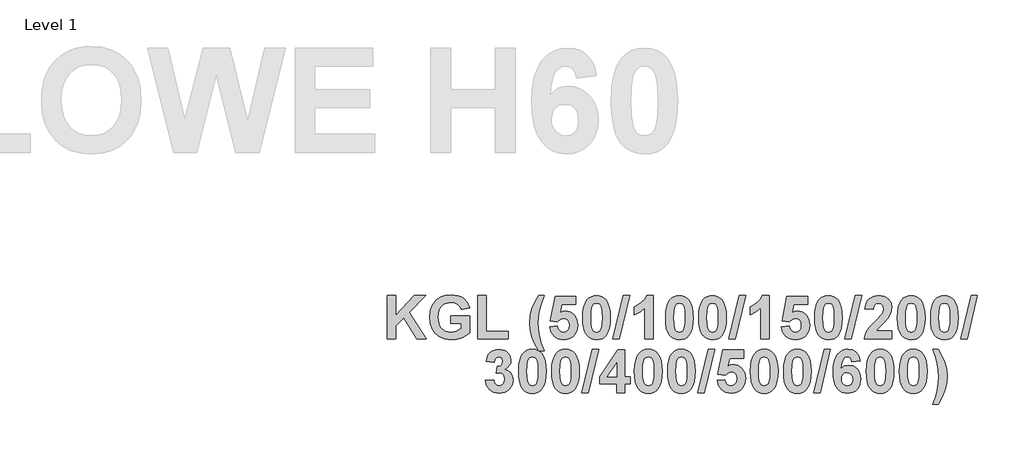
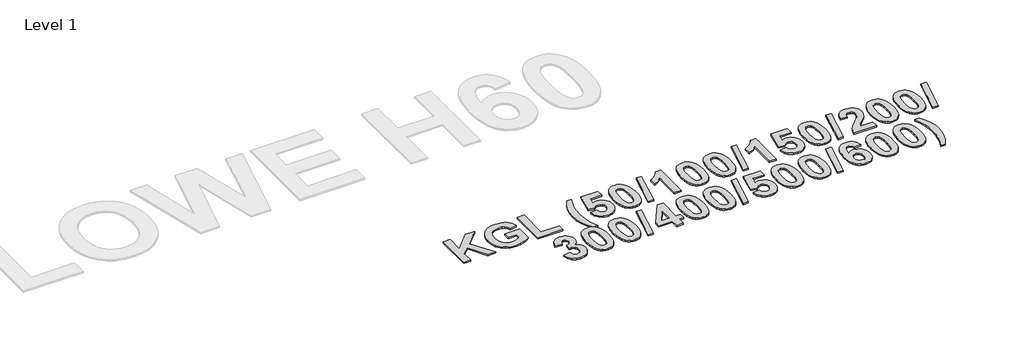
# One storey, part 27 of 42: 1 proxy.
"""IFC4 building model written with IfcOpenShell, lengths in millimetres."""

from ifc_helpers import new_model, si_unit, origin, origin_with_axes, place, context, project, spatial, polyline, outline, extrude, element, save

model = new_model("IFC4")

# Units and contexts
model_context = context("Model", 3, world=origin())
ifc_project = project(units=[si_unit("LENGTHUNIT", "METRE", prefix="MILLI")], contexts=[model_context])

# Site, building, storey
site = spatial("IfcSite", under=ifc_project)
building = spatial("IfcBuilding", under=site)
storey = spatial("IfcBuildingStorey", under=building, Name="Level 1", Elevation=0.0)

# Proxy
placement = place(None, origin())
element("IfcBuildingElementProxy", 1, Name="300mm Arial 2", ObjectType="300mm Arial 2", at=placement, inside=storey, context=model_context, shape_type="SweptSolid", body=[
    extrude(outline(polyline([(-7254.0265891, 21266.2760859), (-7254.0265891, 21521.3409359), (-7205.4428082, 21521.3409359), (-7205.4428082, 21405.0688143), (-7096.0027808, 21521.3409359), (-7029.3266022, 21521.3409359), (-7125.8615628, 21423.9203335), (-7025.2779538, 21266.2760859), (-7082.0855519, 21266.2760859), (-7157.4283684, 21391.9739671), (-7205.4428082, 21343.4534463), (-7205.4428082, 21266.2760859), (-7254.0265891, 21266.2760859)])), origin_with_axes(), (0.0, 0.0, 1.0), 10.0),
    extrude(outline(polyline([(-6881.5509352, 21359.3949994), (-6881.5509352, 21403.930132), (-6772.237428, 21403.930132), (-6772.237428, 21302.2078406), (-6791.7531786, 21287.2863571), (-6818.417324, 21274.2784926), (-6848.8454472, 21265.2402013), (-6879.6531312, 21262.2274375), (-6916.4863428, 21266.4184212), (-6948.2903739, 21278.9913724), (-6973.9423572, 21299.3532272), (-6992.3194253, 21326.9109219), (-7003.3741333, 21359.434537), (-7007.059036, 21394.6941528), (-7002.8917748, 21432.2153182), (-6990.3899913, 21465.3240895), (-6969.8541712, 21492.6287438), (-6941.5847999, 21512.737558), (-6914.0982728, 21522.2265778), (-6880.6020332, 21525.3895843), (-6838.399618, 21520.2813287), (-6821.1829779, 21513.8960092), (-6806.5560493, 21504.9565619), (-6784.6443213, 21480.6172263), (-6772.237428, 21448.4652645), (-6820.821209, 21440.3679677), (-6828.997581, 21457.1714401), (-6842.1398733, 21470.0053393), (-6859.7103748, 21478.1421737), (-6881.1713744, 21480.8544518), (-6912.9754055, 21475.5564158), (-6926.1611891, 21468.9338708), (-6937.5361515, 21459.6623078), (-6946.6970093, 21447.7812643), (-6953.2404791, 21433.330278), (-6958.475255, 21396.718477), (-6953.2721092, 21357.3627677), (-6946.7681769, 21341.9015962), (-6937.6626718, 21329.2515468), (-6926.4458597, 21319.4126195), (-6913.6080068, 21312.3848142), (-6883.0691783, 21306.7625701), (-6849.6361989, 21312.9304329), (-6820.821209, 21327.891454), (-6820.821209, 21359.3949994), (-6881.5509352, 21359.3949994)])), origin_with_axes(), (0.0, 0.0, 1.0), 10.0),
    extrude(outline(polyline([(-6723.6536471, 21266.2760859), (-6723.6536471, 21521.3409359), (-6675.0698661, 21521.3409359), (-6675.0698661, 21310.8112185), (-6545.5131169, 21310.8112185), (-6545.5131169, 21266.2760859), (-6723.6536471, 21266.2760859)])), origin_with_axes(), (0.0, 0.0, 1.0), 10.0),
    extrude(outline(polyline([(-6334.9833995, 21197.4490629), (-6367.3725868, 21197.4490629), (-6390.0434364, 21237.1210729), (-6406.5622382, 21278.327141), (-6416.6443217, 21319.6280993), (-6420.0050161, 21359.5847798), (-6415.8931076, 21406.9824333), (-6403.557382, 21451.7547913), (-6387.3627883, 21488.0344767), (-6367.3725868, 21521.3409359), (-6334.9833995, 21521.3409359), (-6352.5459935, 21474.1014328), (-6363.608609, 21434.4847754), (-6369.4680786, 21397.6041188), (-6371.4212352, 21358.5726177), (-6366.7399855, 21301.92317), (-6353.8981788, 21246.8552256), (-6334.9833995, 21197.4490629)])), origin_with_axes(), (0.0, 0.0, 1.0), 10.0),
    extrude(outline(polyline([(-6302.5942122, 21338.0763351), (-6258.0590796, 21343.2004058), (-6253.915541, 21328.1286795), (-6245.6600939, 21316.5678904), (-6234.5579408, 21309.2139001), (-6221.8742845, 21306.7625701), (-6207.6802925, 21309.364143), (-6195.8427404, 21317.1688617), (-6187.8482413, 21330.2083563), (-6185.1834082, 21348.5142568), (-6187.6584609, 21365.6735675), (-6195.0836188, 21377.9302179), (-6206.47835, 21385.2842082), (-6220.8621224, 21387.7355383), (-6239.6820115, 21382.6747278), (-6256.4143162, 21367.4922962), (-6298.5455638, 21373.7550493), (-6270.2050249, 21517.2922875), (-6148.7455725, 21517.2922875), (-6148.7455725, 21468.7085066), (-6230.9204833, 21468.7085066), (-6240.7258036, 21422.3388302), (-6225.2428865, 21429.7877107), (-6209.4120386, 21432.2706708), (-6181.2929101, 21426.5219064), (-6157.7917713, 21409.2756131), (-6141.8976633, 21382.8566007), (-6136.5996273, 21349.589679), (-6141.0120214, 21320.6639839), (-6154.2492039, 21294.9961856), (-6167.4666177, 21280.6598583), (-6183.0167487, 21270.4196245), (-6200.8995971, 21264.2754843), (-6221.1151629, 21262.2274375), (-6252.1205348, 21267.3673232), (-6276.8157086, 21282.7869802), (-6294.0303719, 21306.8890903), (-6302.5942122, 21338.0763351)])), origin_with_axes(), (0.0, 0.0, 1.0), 10.0),
    extrude(outline(polyline([(-6027.2861201, 21521.3409359), (-6010.1544858, 21519.6961725), (-5995.0076381, 21514.7618822), (-5981.845577, 21506.5380652), (-5970.6683025, 21495.0247212), (-5960.0129241, 21476.8967398), (-5952.4019395, 21453.6367802), (-5947.8353488, 21425.2448425), (-5946.3131519, 21391.7209266), (-5947.8432563, 21358.2286407), (-5952.4335696, 21329.8050729), (-5960.0840917, 21306.4502232), (-5970.7948228, 21288.1640914), (-5981.9167446, 21276.8168053), (-5995.0392681, 21268.711601), (-6010.1623933, 21263.8484784), (-6027.2861201, 21262.2274375), (-6044.5936967, 21264.0066287), (-6060.1418509, 21269.3442023), (-6073.9305827, 21278.2401583), (-6085.9598921, 21290.6944967), (-6095.7157904, 21307.7154258), (-6102.6842893, 21330.311154), (-6106.8653886, 21358.4816813), (-6108.2590884, 21392.2270076), (-6106.728984, 21425.5532356), (-6102.1386707, 21453.8581907), (-6094.4881485, 21477.1418728), (-6083.7774175, 21495.404282), (-6072.6554957, 21506.7515681), (-6059.5329721, 21514.8567724), (-6044.409847, 21519.7198951), (-6027.2861201, 21521.3409359)]), holes=[polyline([(-6027.2861201, 21476.8058034), (-6043.4807138, 21471.4603223), (-6049.8067269, 21463.9877192), (-6054.4879767, 21452.2608724), (-6058.3784747, 21428.1113172), (-6059.6753074, 21391.7209266), (-6058.52081, 21355.8128945), (-6055.0573178, 21333.2369351), (-6049.8304495, 21319.9839375), (-6043.3858236, 21312.044791), (-6027.2861201, 21306.7625701), (-6011.0915265, 21312.1080512), (-6004.7655133, 21319.5806542), (-6000.0842636, 21331.3075011), (-5996.1937655, 21355.330536), (-5994.8969328, 21391.7209266), (-5996.0514302, 21427.5894211), (-5999.5149224, 21450.173288), (-6004.7417908, 21463.4658232), (-6011.1864167, 21471.4603223), (-6027.2861201, 21476.8058034)])]), origin_with_axes(), (0.0, 0.0, 1.0), 10.0),
    extrude(outline(polyline([(-5931.0042001, 21266.2760859), (-5870.2744739, 21521.3409359), (-5832.9509963, 21521.3409359), (-5893.6807225, 21266.2760859), (-5931.0042001, 21266.2760859)])), origin_with_axes(), (0.0, 0.0, 1.0), 10.0),
    extrude(outline(polyline([(-5695.2969503, 21266.2760859), (-5743.8807313, 21266.2760859), (-5743.8807313, 21448.5917848), (-5771.9365996, 21424.7110851), (-5804.6104574, 21407.9787804), (-5804.6104574, 21456.5625613), (-5785.142152, 21465.6482977), (-5764.0607132, 21480.3800008), (-5745.6045698, 21499.3975778), (-5734.0121508, 21521.3409359), (-5695.2969503, 21521.3409359), (-5695.2969503, 21266.2760859)])), origin_with_axes(), (0.0, 0.0, 1.0), 10.0),
    extrude(outline(polyline([(-5541.4483106, 21521.3409359), (-5524.3166763, 21519.6961725), (-5509.1698286, 21514.7618822), (-5496.0077675, 21506.5380652), (-5484.830493, 21495.0247212), (-5474.1751146, 21476.8967398), (-5466.56413, 21453.6367802), (-5461.9975393, 21425.2448425), (-5460.4753424, 21391.7209266), (-5462.0054468, 21358.2286407), (-5466.5957601, 21329.8050729), (-5474.2462822, 21306.4502232), (-5484.9570133, 21288.1640914), (-5496.0789351, 21276.8168053), (-5509.2014586, 21268.711601), (-5524.3245838, 21263.8484784), (-5541.4483106, 21262.2274375), (-5558.7558872, 21264.0066287), (-5574.3040414, 21269.3442023), (-5588.0927732, 21278.2401583), (-5600.1220825, 21290.6944967), (-5609.8779809, 21307.7154258), (-5616.8464798, 21330.311154), (-5621.0275791, 21358.4816813), (-5622.4212789, 21392.2270076), (-5620.8911745, 21425.5532356), (-5616.3008612, 21453.8581907), (-5608.650339, 21477.1418728), (-5597.939608, 21495.404282), (-5586.8176862, 21506.7515681), (-5573.6951626, 21514.8567724), (-5558.5720375, 21519.7198951), (-5541.4483106, 21521.3409359)]), holes=[polyline([(-5541.4483106, 21476.8058034), (-5557.6429043, 21471.4603223), (-5563.9689174, 21463.9877192), (-5568.6501672, 21452.2608724), (-5572.5406652, 21428.1113172), (-5573.8374979, 21391.7209266), (-5572.6830005, 21355.8128945), (-5569.2195083, 21333.2369351), (-5563.99264, 21319.9839375), (-5557.5480141, 21312.044791), (-5541.4483106, 21306.7625701), (-5525.253717, 21312.1080512), (-5518.9277038, 21319.5806542), (-5514.2464541, 21331.3075011), (-5510.355956, 21355.330536), (-5509.0591233, 21391.7209266), (-5510.2136207, 21427.5894211), (-5513.6771129, 21450.173288), (-5518.9039813, 21463.4658232), (-5525.3486072, 21471.4603223), (-5541.4483106, 21476.8058034)])]), origin_with_axes(), (0.0, 0.0, 1.0), 10.0),
    extrude(outline(polyline([(-5347.1131868, 21521.3409359), (-5329.9815525, 21519.6961725), (-5314.8347048, 21514.7618822), (-5301.6726437, 21506.5380652), (-5290.4953692, 21495.0247212), (-5279.8399908, 21476.8967398), (-5272.2290062, 21453.6367802), (-5267.6624155, 21425.2448425), (-5266.1402186, 21391.7209266), (-5267.670323, 21358.2286407), (-5272.2606363, 21329.8050729), (-5279.9111584, 21306.4502232), (-5290.6218894, 21288.1640914), (-5301.7438113, 21276.8168053), (-5314.8663348, 21268.711601), (-5329.98946, 21263.8484784), (-5347.1131868, 21262.2274375), (-5364.4207634, 21264.0066287), (-5379.9689176, 21269.3442023), (-5393.7576494, 21278.2401583), (-5405.7869587, 21290.6944967), (-5415.5428571, 21307.7154258), (-5422.511356, 21330.311154), (-5426.6924553, 21358.4816813), (-5428.0861551, 21392.2270076), (-5426.5560507, 21425.5532356), (-5421.9657374, 21453.8581907), (-5414.3152152, 21477.1418728), (-5403.6044842, 21495.404282), (-5392.4825624, 21506.7515681), (-5379.3600388, 21514.8567724), (-5364.2369137, 21519.7198951), (-5347.1131868, 21521.3409359)]), holes=[polyline([(-5347.1131868, 21476.8058034), (-5363.3077805, 21471.4603223), (-5369.6337936, 21463.9877192), (-5374.3150434, 21452.2608724), (-5378.2055414, 21428.1113172), (-5379.5023741, 21391.7209266), (-5378.3478767, 21355.8128945), (-5374.8843845, 21333.2369351), (-5369.6575162, 21319.9839375), (-5363.2128903, 21312.044791), (-5347.1131868, 21306.7625701), (-5330.9185932, 21312.1080512), (-5324.59258, 21319.5806542), (-5319.9113303, 21331.3075011), (-5316.0208322, 21355.330536), (-5314.7239995, 21391.7209266), (-5315.8784969, 21427.5894211), (-5319.3419891, 21450.173288), (-5324.5688575, 21463.4658232), (-5331.0134834, 21471.4603223), (-5347.1131868, 21476.8058034)])]), origin_with_axes(), (0.0, 0.0, 1.0), 10.0),
    extrude(outline(polyline([(-5250.8312668, 21266.2760859), (-5190.1015406, 21521.3409359), (-5152.778063, 21521.3409359), (-5213.5077892, 21266.2760859), (-5250.8312668, 21266.2760859)])), origin_with_axes(), (0.0, 0.0, 1.0), 10.0),
    extrude(outline(polyline([(-5015.124017, 21266.2760859), (-5063.707798, 21266.2760859), (-5063.707798, 21448.5917848), (-5091.7636662, 21424.7110851), (-5124.4375241, 21407.9787804), (-5124.4375241, 21456.5625613), (-5104.9692187, 21465.6482977), (-5083.8877799, 21480.3800008), (-5065.4316365, 21499.3975778), (-5053.8392174, 21521.3409359), (-5015.124017, 21521.3409359), (-5015.124017, 21266.2760859)])), origin_with_axes(), (0.0, 0.0, 1.0), 10.0),
    extrude(outline(polyline([(-4942.2483456, 21338.0763351), (-4897.713213, 21343.2004058), (-4893.5696744, 21328.1286795), (-4885.3142273, 21316.5678904), (-4874.2120742, 21309.2139001), (-4861.5284179, 21306.7625701), (-4847.3344259, 21309.364143), (-4835.4968738, 21317.1688617), (-4827.5023747, 21330.2083563), (-4824.8375416, 21348.5142568), (-4827.3125943, 21365.6735675), (-4834.7377522, 21377.9302179), (-4846.1324834, 21385.2842082), (-4860.5162557, 21387.7355383), (-4879.3361449, 21382.6747278), (-4896.0684496, 21367.4922962), (-4938.1996972, 21373.7550493), (-4909.8591583, 21517.2922875), (-4788.3997059, 21517.2922875), (-4788.3997059, 21468.7085066), (-4870.5746166, 21468.7085066), (-4880.379937, 21422.3388302), (-4864.8970199, 21429.7877107), (-4849.066172, 21432.2706708), (-4820.9470435, 21426.5219064), (-4797.4459047, 21409.2756131), (-4781.5517967, 21382.8566007), (-4776.2537607, 21349.589679), (-4780.6661548, 21320.6639839), (-4793.9033373, 21294.9961856), (-4807.1207511, 21280.6598583), (-4822.6708821, 21270.4196245), (-4840.5537305, 21264.2754843), (-4860.7692963, 21262.2274375), (-4891.7746682, 21267.3673232), (-4916.469842, 21282.7869802), (-4933.6845053, 21306.8890903), (-4942.2483456, 21338.0763351)])), origin_with_axes(), (0.0, 0.0, 1.0), 10.0),
    extrude(outline(polyline([(-4666.9402535, 21521.3409359), (-4649.8086192, 21519.6961725), (-4634.6617715, 21514.7618822), (-4621.4997104, 21506.5380652), (-4610.3224359, 21495.0247212), (-4599.6670575, 21476.8967398), (-4592.0560729, 21453.6367802), (-4587.4894822, 21425.2448425), (-4585.9672853, 21391.7209266), (-4587.4973897, 21358.2286407), (-4592.087703, 21329.8050729), (-4599.7382251, 21306.4502232), (-4610.4489561, 21288.1640914), (-4621.570878, 21276.8168053), (-4634.6934015, 21268.711601), (-4649.8165267, 21263.8484784), (-4666.9402535, 21262.2274375), (-4684.2478301, 21264.0066287), (-4699.7959843, 21269.3442023), (-4713.5847161, 21278.2401583), (-4725.6140254, 21290.6944967), (-4735.3699238, 21307.7154258), (-4742.3384227, 21330.311154), (-4746.519522, 21358.4816813), (-4747.9132218, 21392.2270076), (-4746.3831173, 21425.5532356), (-4741.7928041, 21453.8581907), (-4734.1422819, 21477.1418728), (-4723.4315509, 21495.404282), (-4712.309629, 21506.7515681), (-4699.1871055, 21514.8567724), (-4684.0639804, 21519.7198951), (-4666.9402535, 21521.3409359)]), holes=[polyline([(-4666.9402535, 21476.8058034), (-4683.1348472, 21471.4603223), (-4689.4608603, 21463.9877192), (-4694.14211, 21452.2608724), (-4698.0326081, 21428.1113172), (-4699.3294408, 21391.7209266), (-4698.1749434, 21355.8128945), (-4694.7114512, 21333.2369351), (-4689.4845829, 21319.9839375), (-4683.039957, 21312.044791), (-4666.9402535, 21306.7625701), (-4650.7456599, 21312.1080512), (-4644.4196467, 21319.5806542), (-4639.738397, 21331.3075011), (-4635.8478989, 21355.330536), (-4634.5510662, 21391.7209266), (-4635.7055636, 21427.5894211), (-4639.1690558, 21450.173288), (-4644.3959242, 21463.4658232), (-4650.8405501, 21471.4603223), (-4666.9402535, 21476.8058034)])]), origin_with_axes(), (0.0, 0.0, 1.0), 10.0),
    extrude(outline(polyline([(-4570.6583335, 21266.2760859), (-4509.9286073, 21521.3409359), (-4472.6051297, 21521.3409359), (-4533.3348559, 21266.2760859), (-4570.6583335, 21266.2760859)])), origin_with_axes(), (0.0, 0.0, 1.0), 10.0),
    extrude(outline(polyline([(-4294.4645996, 21314.8598669), (-4294.4645996, 21266.2760859), (-4456.4105361, 21266.2760859), (-4451.2390203, 21290.7814793), (-4440.9118039, 21313.942595), (-4421.728169, 21340.1243819), (-4389.9873981, 21373.6917891), (-4352.41088, 21414.4313138), (-4345.3890054, 21429.1392943), (-4343.0483805, 21443.6574945), (-4345.0173521, 21457.8040414), (-4350.9242669, 21468.2340556), (-4360.2946739, 21474.6628664), (-4372.654122, 21476.8058034), (-4384.9265875, 21474.6944965), (-4394.4156073, 21468.3605758), (-4400.8048805, 21457.13981), (-4403.7781067, 21440.3679677), (-4452.3618877, 21444.7961769), (-4443.7585098, 21479.9450874), (-4436.1356639, 21493.1842468), (-4426.2987135, 21503.5332089), (-4401.6747073, 21516.8890042), (-4371.5786998, 21521.3409359), (-4339.442553, 21516.3512931), (-4315.0241423, 21501.3823644), (-4299.6044853, 21478.9961854), (-4294.4645996, 21451.7547913), (-4300.0947513, 21419.6186446), (-4317.9341083, 21387.6722782), (-4348.1408211, 21355.7891719), (-4375.8803887, 21328.1444945), (-4384.9898477, 21314.8598669), (-4294.4645996, 21314.8598669)])), origin_with_axes(), (0.0, 0.0, 1.0), 10.0),
    extrude(outline(polyline([(-4181.102444, 21521.3409359), (-4163.9708097, 21519.6961725), (-4148.823962, 21514.7618822), (-4135.6619009, 21506.5380652), (-4124.4846264, 21495.0247212), (-4113.829248, 21476.8967398), (-4106.2182634, 21453.6367802), (-4101.6516727, 21425.2448425), (-4100.1294758, 21391.7209266), (-4101.6595802, 21358.2286407), (-4106.2498935, 21329.8050729), (-4113.9004156, 21306.4502232), (-4124.6111466, 21288.1640914), (-4135.7330685, 21276.8168053), (-4148.855592, 21268.711601), (-4163.9787172, 21263.8484784), (-4181.102444, 21262.2274375), (-4198.4100206, 21264.0066287), (-4213.9581748, 21269.3442023), (-4227.7469066, 21278.2401583), (-4239.7762159, 21290.6944967), (-4249.5321143, 21307.7154258), (-4256.5006132, 21330.311154), (-4260.6817125, 21358.4816813), (-4262.0754123, 21392.2270076), (-4260.5453078, 21425.5532356), (-4255.9549946, 21453.8581907), (-4248.3044724, 21477.1418728), (-4237.5937414, 21495.404282), (-4226.4718195, 21506.7515681), (-4213.349296, 21514.8567724), (-4198.2261709, 21519.7198951), (-4181.102444, 21521.3409359)]), holes=[polyline([(-4181.102444, 21476.8058034), (-4197.2970377, 21471.4603223), (-4203.6230508, 21463.9877192), (-4208.3043005, 21452.2608724), (-4212.1947986, 21428.1113172), (-4213.4916313, 21391.7209266), (-4212.3371339, 21355.8128945), (-4208.8736417, 21333.2369351), (-4203.6467734, 21319.9839375), (-4197.2021475, 21312.044791), (-4181.102444, 21306.7625701), (-4164.9078504, 21312.1080512), (-4158.5818372, 21319.5806542), (-4153.9005875, 21331.3075011), (-4150.0100894, 21355.330536), (-4148.7132567, 21391.7209266), (-4149.8677541, 21427.5894211), (-4153.3312463, 21450.173288), (-4158.5581147, 21463.4658232), (-4165.0027406, 21471.4603223), (-4181.102444, 21476.8058034)])]), origin_with_axes(), (0.0, 0.0, 1.0), 10.0),
    extrude(outline(polyline([(-3986.7673202, 21521.3409359), (-3969.6356859, 21519.6961725), (-3954.4888382, 21514.7618822), (-3941.3267771, 21506.5380652), (-3930.1495026, 21495.0247212), (-3919.4941242, 21476.8967398), (-3911.8831396, 21453.6367802), (-3907.3165489, 21425.2448425), (-3905.794352, 21391.7209266), (-3907.3244564, 21358.2286407), (-3911.9147697, 21329.8050729), (-3919.5652918, 21306.4502232), (-3930.2760228, 21288.1640914), (-3941.3979447, 21276.8168053), (-3954.5204682, 21268.711601), (-3969.6435934, 21263.8484784), (-3986.7673202, 21262.2274375), (-4004.0748968, 21264.0066287), (-4019.623051, 21269.3442023), (-4033.4117828, 21278.2401583), (-4045.4410921, 21290.6944967), (-4055.1969905, 21307.7154258), (-4062.1654894, 21330.311154), (-4066.3465887, 21358.4816813), (-4067.7402885, 21392.2270076), (-4066.210184, 21425.5532356), (-4061.6198708, 21453.8581907), (-4053.9693486, 21477.1418728), (-4043.2586176, 21495.404282), (-4032.1366957, 21506.7515681), (-4019.0141722, 21514.8567724), (-4003.8910471, 21519.7198951), (-3986.7673202, 21521.3409359)]), holes=[polyline([(-3986.7673202, 21476.8058034), (-4002.9619139, 21471.4603223), (-4009.287927, 21463.9877192), (-4013.9691767, 21452.2608724), (-4017.8596748, 21428.1113172), (-4019.1565075, 21391.7209266), (-4018.0020101, 21355.8128945), (-4014.5385179, 21333.2369351), (-4009.3116496, 21319.9839375), (-4002.8670237, 21312.044791), (-3986.7673202, 21306.7625701), (-3970.5727266, 21312.1080512), (-3964.2467134, 21319.5806542), (-3959.5654637, 21331.3075011), (-3955.6749656, 21355.330536), (-3954.3781329, 21391.7209266), (-3955.5326303, 21427.5894211), (-3958.9961225, 21450.173288), (-3964.2229909, 21463.4658232), (-3970.6676168, 21471.4603223), (-3986.7673202, 21476.8058034)])]), origin_with_axes(), (0.0, 0.0, 1.0), 10.0),
    extrude(outline(polyline([(-3890.4854002, 21266.2760859), (-3829.755674, 21521.3409359), (-3792.4321964, 21521.3409359), (-3853.1619226, 21266.2760859), (-3890.4854002, 21266.2760859)])), origin_with_axes(), (0.0, 0.0, 1.0), 10.0),
    extrude(outline(polyline([(-6679.1185146, 21022.7918795), (-6630.5347336, 21028.4220312), (-6626.7865708, 21012.7967787), (-6619.5907309, 21001.3466949), (-6609.7379654, 20994.3248203), (-6598.019026, 20991.9841955), (-6585.4460749, 20994.6648435), (-6575.0555983, 21002.7067877), (-6568.0811688, 21015.2876464), (-6565.756359, 21031.5850377), (-6567.8834809, 21047.0046948), (-6574.2648467, 21058.8501544), (-6583.7143288, 21066.3939251), (-6595.0457999, 21068.9085153), (-6614.34014, 21065.3026878), (-6610.1017111, 21105.346351), (-6596.2714649, 21107.0860046), (-6586.1577514, 21113.3171276), (-6579.966166, 21123.1857081), (-6577.9023042, 21135.8377344), (-6579.4442699, 21146.5840492), (-6584.0701671, 21154.910664), (-6591.2580995, 21160.2482376), (-6600.4861712, 21162.0274288), (-6609.8723932, 21159.963567), (-6617.7878171, 21153.7719816), (-6623.5523966, 21143.610823), (-6626.4860852, 21129.6382415), (-6675.0698661, 21136.9131566), (-6669.5108821, 21158.6509193), (-6661.6903483, 21175.5334668), (-6650.9677561, 21188.4464412), (-6636.7025964, 21198.2754841), (-6619.7093436, 21204.490792), (-6600.8024718, 21206.5625613), (-6570.1529381, 21200.8217044), (-6557.3664841, 21193.6456332), (-6546.2722385, 21183.5991336), (-6533.5569521, 21163.577302), (-6529.3185233, 21141.0883253), (-6531.5919343, 21125.1428184), (-6538.4121672, 21110.8974275), (-6549.7792221, 21098.3521527), (-6565.6930989, 21087.5069939), (-6545.8294176, 21079.9553157), (-6530.3939455, 21066.6627806), (-6520.4779199, 21048.799701), (-6517.1725781, 21027.5363893), (-6523.0320477, 20996.7682429), (-6540.6104568, 20970.8869416), (-6553.0470032, 20960.6328697), (-6566.9187639, 20953.3085326), (-6598.967928, 20947.4490629), (-6629.2299934, 20952.6601162), (-6653.846092, 20968.2932762), (-6671.0607553, 20992.3400337), (-6679.1185146, 21022.7918795)])), origin_with_axes(), (0.0, 0.0, 1.0), 10.0),
    extrude(outline(polyline([(-6403.8104225, 21206.5625613), (-6386.6787882, 21204.9177979), (-6371.5319404, 21199.9835076), (-6358.3698793, 21191.7596906), (-6347.1926049, 21180.2463466), (-6336.5372265, 21162.1183652), (-6328.9262419, 21138.8584056), (-6324.3596512, 21110.4664679), (-6322.8374542, 21076.942552), (-6324.3675587, 21043.4502661), (-6328.957872, 21015.0266983), (-6336.6083941, 20991.6718486), (-6347.3191251, 20973.3857168), (-6358.441047, 20962.0384307), (-6371.5635705, 20953.9332264), (-6386.6866957, 20949.0701038), (-6403.8104225, 20947.4490629), (-6421.1179991, 20949.2282541), (-6436.6661533, 20954.5658277), (-6450.454885, 20963.4617837), (-6462.4841944, 20975.9161221), (-6472.2400928, 20992.9370512), (-6479.2085917, 21015.5327794), (-6483.389691, 21043.7033067), (-6484.7833908, 21077.448633), (-6483.2532863, 21110.774861), (-6478.662973, 21139.0798161), (-6471.0124509, 21162.3634982), (-6460.3017199, 21180.6259074), (-6449.179798, 21191.9731935), (-6436.0572745, 21200.0783978), (-6420.9341493, 21204.9415205), (-6403.8104225, 21206.5625613)]), holes=[polyline([(-6403.8104225, 21162.0274288), (-6420.0050161, 21156.6819477), (-6426.3310293, 21149.2093446), (-6431.012279, 21137.4824978), (-6434.9027771, 21113.3329426), (-6436.1996098, 21076.942552), (-6435.0451124, 21041.0345199), (-6431.5816202, 21018.4585605), (-6426.3547518, 21005.2055629), (-6419.910126, 20997.2664164), (-6403.8104225, 20991.9841955), (-6387.6158288, 20997.3296766), (-6381.2898157, 21004.8022796), (-6376.608566, 21016.5291265), (-6372.7180679, 21040.5521614), (-6371.4212352, 21076.942552), (-6372.5757326, 21112.8110465), (-6376.0392248, 21135.3949134), (-6381.2660932, 21148.6874486), (-6387.710719, 21156.6819477), (-6403.8104225, 21162.0274288)])]), origin_with_axes(), (0.0, 0.0, 1.0), 10.0),
    extrude(outline(polyline([(-6209.4752987, 21206.5625613), (-6192.3436644, 21204.9177979), (-6177.1968166, 21199.9835076), (-6164.0347555, 21191.7596906), (-6152.8574811, 21180.2463466), (-6142.2021027, 21162.1183652), (-6134.5911181, 21138.8584056), (-6130.0245274, 21110.4664679), (-6128.5023304, 21076.942552), (-6130.0324349, 21043.4502661), (-6134.6227482, 21015.0266983), (-6142.2732703, 20991.6718486), (-6152.9840013, 20973.3857168), (-6164.1059232, 20962.0384307), (-6177.2284467, 20953.9332264), (-6192.3515719, 20949.0701038), (-6209.4752987, 20947.4490629), (-6226.7828753, 20949.2282541), (-6242.3310295, 20954.5658277), (-6256.1197612, 20963.4617837), (-6268.1490706, 20975.9161221), (-6277.904969, 20992.9370512), (-6284.8734679, 21015.5327794), (-6289.0545672, 21043.7033067), (-6290.4482669, 21077.448633), (-6288.9181625, 21110.774861), (-6284.3278492, 21139.0798161), (-6276.6773271, 21162.3634982), (-6265.9665961, 21180.6259074), (-6254.8446742, 21191.9731935), (-6241.7221507, 21200.0783978), (-6226.5990255, 21204.9415205), (-6209.4752987, 21206.5625613)]), holes=[polyline([(-6209.4752987, 21162.0274288), (-6225.6698923, 21156.6819477), (-6231.9959055, 21149.2093446), (-6236.6771552, 21137.4824978), (-6240.5676533, 21113.3329426), (-6241.864486, 21076.942552), (-6240.7099886, 21041.0345199), (-6237.2464964, 21018.4585605), (-6232.019628, 21005.2055629), (-6225.5750022, 20997.2664164), (-6209.4752987, 20991.9841955), (-6193.280705, 20997.3296766), (-6186.9546919, 21004.8022796), (-6182.2734422, 21016.5291265), (-6178.3829441, 21040.5521614), (-6177.0861114, 21076.942552), (-6178.2406088, 21112.8110465), (-6181.704101, 21135.3949134), (-6186.9309694, 21148.6874486), (-6193.3755952, 21156.6819477), (-6209.4752987, 21162.0274288)])]), origin_with_axes(), (0.0, 0.0, 1.0), 10.0),
    extrude(outline(polyline([(-6113.1933786, 20951.4977113), (-6052.4636525, 21206.5625613), (-6015.1401749, 21206.5625613), (-6075.8699011, 20951.4977113), (-6113.1933786, 20951.4977113)])), origin_with_axes(), (0.0, 0.0, 1.0), 10.0),
    extrude(outline(polyline([(-5909.8753162, 20951.4977113), (-5909.8753162, 21004.1301407), (-6007.0428781, 21004.1301407), (-6007.0428781, 21044.4268444), (-5903.4227828, 21202.5139129), (-5861.2915352, 21202.5139129), (-5861.2915352, 21044.6166248), (-5828.9023479, 21044.6166248), (-5828.9023479, 21004.1301407), (-5861.2915352, 21004.1301407), (-5861.2915352, 20951.4977113), (-5909.8753162, 20951.4977113)]), holes=[polyline([(-5909.8753162, 21044.6166248), (-5909.8753162, 21127.487397), (-5964.152509, 21044.6166248), (-5909.8753162, 21044.6166248)])]), origin_with_axes(), (0.0, 0.0, 1.0), 10.0),
    extrude(outline(polyline([(-5723.6374892, 21206.5625613), (-5706.5058548, 21204.9177979), (-5691.3590071, 21199.9835076), (-5678.196946, 21191.7596906), (-5667.0196716, 21180.2463466), (-5656.3642932, 21162.1183652), (-5648.7533086, 21138.8584056), (-5644.1867179, 21110.4664679), (-5642.6645209, 21076.942552), (-5644.1946254, 21043.4502661), (-5648.7849387, 21015.0266983), (-5656.4354608, 20991.6718486), (-5667.1461918, 20973.3857168), (-5678.2681137, 20962.0384307), (-5691.3906372, 20953.9332264), (-5706.5137624, 20949.0701038), (-5723.6374892, 20947.4490629), (-5740.9450658, 20949.2282541), (-5756.49322, 20954.5658277), (-5770.2819517, 20963.4617837), (-5782.3112611, 20975.9161221), (-5792.0671595, 20992.9370512), (-5799.0356584, 21015.5327794), (-5803.2167577, 21043.7033067), (-5804.6104574, 21077.448633), (-5803.080353, 21110.774861), (-5798.4900397, 21139.0798161), (-5790.8395176, 21162.3634982), (-5780.1287866, 21180.6259074), (-5769.0068647, 21191.9731935), (-5755.8843412, 21200.0783978), (-5740.761216, 21204.9415205), (-5723.6374892, 21206.5625613)]), holes=[polyline([(-5723.6374892, 21162.0274288), (-5739.8320828, 21156.6819477), (-5746.158096, 21149.2093446), (-5750.8393457, 21137.4824978), (-5754.7298438, 21113.3329426), (-5756.0266765, 21076.942552), (-5754.8721791, 21041.0345199), (-5751.4086869, 21018.4585605), (-5746.1818185, 21005.2055629), (-5739.7371926, 20997.2664164), (-5723.6374892, 20991.9841955), (-5707.4428955, 20997.3296766), (-5701.1168824, 21004.8022796), (-5696.4356327, 21016.5291265), (-5692.5451346, 21040.5521614), (-5691.2483019, 21076.942552), (-5692.4027993, 21112.8110465), (-5695.8662915, 21135.3949134), (-5701.0931599, 21148.6874486), (-5707.5377857, 21156.6819477), (-5723.6374892, 21162.0274288)])]), origin_with_axes(), (0.0, 0.0, 1.0), 10.0),
    extrude(outline(polyline([(-5529.3023654, 21206.5625613), (-5512.170731, 21204.9177979), (-5497.0238833, 21199.9835076), (-5483.8618222, 21191.7596906), (-5472.6845477, 21180.2463466), (-5462.0291694, 21162.1183652), (-5454.4181848, 21138.8584056), (-5449.8515941, 21110.4664679), (-5448.3293971, 21076.942552), (-5449.8595016, 21043.4502661), (-5454.4498149, 21015.0266983), (-5462.100337, 20991.6718486), (-5472.811068, 20973.3857168), (-5483.9329899, 20962.0384307), (-5497.0555134, 20953.9332264), (-5512.1786386, 20949.0701038), (-5529.3023654, 20947.4490629), (-5546.609942, 20949.2282541), (-5562.1580962, 20954.5658277), (-5575.9468279, 20963.4617837), (-5587.9761373, 20975.9161221), (-5597.7320357, 20992.9370512), (-5604.7005346, 21015.5327794), (-5608.8816339, 21043.7033067), (-5610.2753336, 21077.448633), (-5608.7452292, 21110.774861), (-5604.1549159, 21139.0798161), (-5596.5043938, 21162.3634982), (-5585.7936628, 21180.6259074), (-5574.6717409, 21191.9731935), (-5561.5492174, 21200.0783978), (-5546.4260922, 21204.9415205), (-5529.3023654, 21206.5625613)]), holes=[polyline([(-5529.3023654, 21162.0274288), (-5545.496959, 21156.6819477), (-5551.8229722, 21149.2093446), (-5556.5042219, 21137.4824978), (-5560.39472, 21113.3329426), (-5561.6915527, 21076.942552), (-5560.5370553, 21041.0345199), (-5557.0735631, 21018.4585605), (-5551.8466947, 21005.2055629), (-5545.4020688, 20997.2664164), (-5529.3023654, 20991.9841955), (-5513.1077717, 20997.3296766), (-5506.7817586, 21004.8022796), (-5502.1005089, 21016.5291265), (-5498.2100108, 21040.5521614), (-5496.9131781, 21076.942552), (-5498.0676755, 21112.8110465), (-5501.5311677, 21135.3949134), (-5506.758036, 21148.6874486), (-5513.2026619, 21156.6819477), (-5529.3023654, 21162.0274288)])]), origin_with_axes(), (0.0, 0.0, 1.0), 10.0),
    extrude(outline(polyline([(-5433.0204453, 20951.4977113), (-5372.2907191, 21206.5625613), (-5334.9672416, 21206.5625613), (-5395.6969678, 20951.4977113), (-5433.0204453, 20951.4977113)])), origin_with_axes(), (0.0, 0.0, 1.0), 10.0),
    extrude(outline(polyline([(-5318.7726479, 21023.2979605), (-5274.2375154, 21028.4220312), (-5270.0939768, 21013.3503049), (-5261.8385296, 21001.7895158), (-5250.7363766, 20994.4355255), (-5238.0527202, 20991.9841955), (-5223.8587282, 20994.5857684), (-5212.0211761, 21002.3904871), (-5204.026677, 21015.4299817), (-5201.361844, 21033.7358822), (-5203.8368966, 21050.8951929), (-5211.2620546, 21063.1518433), (-5222.6567857, 21070.5058336), (-5237.0405581, 21072.9571637), (-5255.8604472, 21067.8963532), (-5272.592752, 21052.7139216), (-5314.7239995, 21058.9766747), (-5286.3834606, 21202.5139129), (-5164.9240083, 21202.5139129), (-5164.9240083, 21153.930132), (-5247.098919, 21153.930132), (-5256.9042394, 21107.5604556), (-5241.4213222, 21115.0093361), (-5225.5904743, 21117.4922962), (-5197.4713459, 21111.7435318), (-5173.9702071, 21094.4972385), (-5158.076099, 21068.0782261), (-5152.778063, 21034.8113044), (-5157.1904572, 21005.8856093), (-5170.4276397, 20980.217811), (-5183.6450534, 20965.8814837), (-5199.1951845, 20955.6412499), (-5217.0780329, 20949.4971097), (-5237.2935986, 20947.4490629), (-5268.2989706, 20952.5889486), (-5292.9941444, 20968.0086056), (-5310.2088076, 20992.1107157), (-5318.7726479, 21023.2979605)])), origin_with_axes(), (0.0, 0.0, 1.0), 10.0),
    extrude(outline(polyline([(-5043.4645559, 21206.5625613), (-5026.3329215, 21204.9177979), (-5011.1860738, 21199.9835076), (-4998.0240127, 21191.7596906), (-4986.8467382, 21180.2463466), (-4976.1913599, 21162.1183652), (-4968.5803753, 21138.8584056), (-4964.0137846, 21110.4664679), (-4962.4915876, 21076.942552), (-4964.0216921, 21043.4502661), (-4968.6120054, 21015.0266983), (-4976.2625275, 20991.6718486), (-4986.9732585, 20973.3857168), (-4998.0951804, 20962.0384307), (-5011.2177039, 20953.9332264), (-5026.3408291, 20949.0701038), (-5043.4645559, 20947.4490629), (-5060.7721325, 20949.2282541), (-5076.3202867, 20954.5658277), (-5090.1090184, 20963.4617837), (-5102.1383278, 20975.9161221), (-5111.8942262, 20992.9370512), (-5118.8627251, 21015.5327794), (-5123.0438244, 21043.7033067), (-5124.4375241, 21077.448633), (-5122.9074197, 21110.774861), (-5118.3171064, 21139.0798161), (-5110.6665843, 21162.3634982), (-5099.9558533, 21180.6259074), (-5088.8339314, 21191.9731935), (-5075.7114079, 21200.0783978), (-5060.5882827, 21204.9415205), (-5043.4645559, 21206.5625613)]), holes=[polyline([(-5043.4645559, 21162.0274288), (-5059.6591495, 21156.6819477), (-5065.9851627, 21149.2093446), (-5070.6664124, 21137.4824978), (-5074.5569105, 21113.3329426), (-5075.8537432, 21076.942552), (-5074.6992458, 21041.0345199), (-5071.2357536, 21018.4585605), (-5066.0088852, 21005.2055629), (-5059.5642593, 20997.2664164), (-5043.4645559, 20991.9841955), (-5027.2699622, 20997.3296766), (-5020.9439491, 21004.8022796), (-5016.2626994, 21016.5291265), (-5012.3722013, 21040.5521614), (-5011.0753686, 21076.942552), (-5012.229866, 21112.8110465), (-5015.6933582, 21135.3949134), (-5020.9202265, 21148.6874486), (-5027.3648524, 21156.6819477), (-5043.4645559, 21162.0274288)])]), origin_with_axes(), (0.0, 0.0, 1.0), 10.0),
    extrude(outline(polyline([(-4849.1294321, 21206.5625613), (-4831.9977977, 21204.9177979), (-4816.85095, 21199.9835076), (-4803.6888889, 21191.7596906), (-4792.5116144, 21180.2463466), (-4781.8562361, 21162.1183652), (-4774.2452515, 21138.8584056), (-4769.6786608, 21110.4664679), (-4768.1564638, 21076.942552), (-4769.6865683, 21043.4502661), (-4774.2768816, 21015.0266983), (-4781.9274037, 20991.6718486), (-4792.6381347, 20973.3857168), (-4803.7600566, 20962.0384307), (-4816.8825801, 20953.9332264), (-4832.0057053, 20949.0701038), (-4849.1294321, 20947.4490629), (-4866.4370087, 20949.2282541), (-4881.9851629, 20954.5658277), (-4895.7738946, 20963.4617837), (-4907.803204, 20975.9161221), (-4917.5591024, 20992.9370512), (-4924.5276013, 21015.5327794), (-4928.7087006, 21043.7033067), (-4930.1024003, 21077.448633), (-4928.5722959, 21110.774861), (-4923.9819826, 21139.0798161), (-4916.3314605, 21162.3634982), (-4905.6207295, 21180.6259074), (-4894.4988076, 21191.9731935), (-4881.3762841, 21200.0783978), (-4866.2531589, 21204.9415205), (-4849.1294321, 21206.5625613)]), holes=[polyline([(-4849.1294321, 21162.0274288), (-4865.3240257, 21156.6819477), (-4871.6500389, 21149.2093446), (-4876.3312886, 21137.4824978), (-4880.2217867, 21113.3329426), (-4881.5186194, 21076.942552), (-4880.364122, 21041.0345199), (-4876.9006298, 21018.4585605), (-4871.6737614, 21005.2055629), (-4865.2291355, 20997.2664164), (-4849.1294321, 20991.9841955), (-4832.9348384, 20997.3296766), (-4826.6088253, 21004.8022796), (-4821.9275756, 21016.5291265), (-4818.0370775, 21040.5521614), (-4816.7402448, 21076.942552), (-4817.8947422, 21112.8110465), (-4821.3582344, 21135.3949134), (-4826.5851027, 21148.6874486), (-4833.0297286, 21156.6819477), (-4849.1294321, 21162.0274288)])]), origin_with_axes(), (0.0, 0.0, 1.0), 10.0),
    extrude(outline(polyline([(-4752.847512, 20951.4977113), (-4692.1177858, 21206.5625613), (-4654.7943083, 21206.5625613), (-4715.5240345, 20951.4977113), (-4752.847512, 20951.4977113)])), origin_with_axes(), (0.0, 0.0, 1.0), 10.0),
    extrude(outline(polyline([(-4480.7024265, 21138.8742207), (-4529.2862075, 21133.6868899), (-4532.2594337, 21146.2835636), (-4537.8895854, 21155.1004444), (-4545.891992, 21160.2956827), (-4555.981983, 21162.0274288), (-4569.5829112, 21158.6667343), (-4580.9064748, 21148.5846508), (-4589.209367, 21127.7483451), (-4593.7482814, 21092.1249835), (-4573.7264498, 21108.1139818), (-4549.3396692, 21113.4436478), (-4521.5131188, 21107.750236), (-4498.0040725, 21090.6700005), (-4481.9913517, 21064.5910113), (-4476.6537781, 21031.9013384), (-4482.1099645, 20997.4641043), (-4488.9301974, 20983.0744013), (-4498.4785235, 20970.570641), (-4510.1697865, 20960.4549506), (-4523.4188303, 20953.2294574), (-4554.5902601, 20947.4490629), (-4572.121224, 20949.3152368), (-4588.0232395, 20954.9137584), (-4602.2963067, 20964.2446278), (-4614.9404255, 20977.307845), (-4625.2913645, 20994.6213522), (-4632.6848923, 21016.7030918), (-4637.1210091, 21043.5530639), (-4638.5997146, 21075.1712683), (-4637.0557721, 21107.6237157), (-4632.4239443, 21135.205133), (-4624.7042314, 21157.9155202), (-4613.8966333, 21175.7548773), (-4600.6218901, 21189.2332391), (-4585.5007418, 21198.8606403), (-4568.5331884, 21204.6370811), (-4549.71923, 21206.5625613), (-4524.3993623, 21202.2292423), (-4503.8556347, 21189.2292853), (-4488.9895038, 21167.9738811), (-4480.7024265, 21138.8742207)]), holes=[polyline([(-4590.0159337, 21032.9767606), (-4587.3906382, 21015.5565019), (-4579.5147519, 21002.6435276), (-4568.2702635, 20994.6490285), (-4555.539162, 20991.9841955), (-4543.6462573, 20994.16667), (-4533.9041971, 21000.7140936), (-4527.4042186, 21012.2432526), (-4525.2375591, 21029.3709331), (-4527.5702764, 21047.1233075), (-4534.5684285, 21059.3878655), (-4545.0617028, 21066.5283528), (-4557.8797869, 21068.9085153), (-4570.3183103, 21066.6311506), (-4580.6850643, 21059.7990564), (-4587.6832163, 21048.538753), (-4590.0159337, 21032.9767606)])]), origin_with_axes(), (0.0, 0.0, 1.0), 10.0),
    extrude(outline(polyline([(-4363.2916226, 21206.5625613), (-4346.1599882, 21204.9177979), (-4331.0131405, 21199.9835076), (-4317.8510794, 21191.7596906), (-4306.6738049, 21180.2463466), (-4296.0184266, 21162.1183652), (-4288.407442, 21138.8584056), (-4283.8408512, 21110.4664679), (-4282.3186543, 21076.942552), (-4283.8487588, 21043.4502661), (-4288.4390721, 21015.0266983), (-4296.0895942, 20991.6718486), (-4306.8003252, 20973.3857168), (-4317.9222471, 20962.0384307), (-4331.0447706, 20953.9332264), (-4346.1678958, 20949.0701038), (-4363.2916226, 20947.4490629), (-4380.5991992, 20949.2282541), (-4396.1473534, 20954.5658277), (-4409.9360851, 20963.4617837), (-4421.9653945, 20975.9161221), (-4431.7212929, 20992.9370512), (-4438.6897918, 21015.5327794), (-4442.8708911, 21043.7033067), (-4444.2645908, 21077.448633), (-4442.7344864, 21110.774861), (-4438.1441731, 21139.0798161), (-4430.493651, 21162.3634982), (-4419.78292, 21180.6259074), (-4408.6609981, 21191.9731935), (-4395.5384746, 21200.0783978), (-4380.4153494, 21204.9415205), (-4363.2916226, 21206.5625613)]), holes=[polyline([(-4363.2916226, 21162.0274288), (-4379.4862162, 21156.6819477), (-4385.8122294, 21149.2093446), (-4390.4934791, 21137.4824978), (-4394.3839772, 21113.3329426), (-4395.6808099, 21076.942552), (-4394.5263125, 21041.0345199), (-4391.0628203, 21018.4585605), (-4385.8359519, 21005.2055629), (-4379.391326, 20997.2664164), (-4363.2916226, 20991.9841955), (-4347.0970289, 20997.3296766), (-4340.7710158, 21004.8022796), (-4336.0897661, 21016.5291265), (-4332.199268, 21040.5521614), (-4330.9024353, 21076.942552), (-4332.0569327, 21112.8110465), (-4335.5204249, 21135.3949134), (-4340.7472932, 21148.6874486), (-4347.1919191, 21156.6819477), (-4363.2916226, 21162.0274288)])]), origin_with_axes(), (0.0, 0.0, 1.0), 10.0),
    extrude(outline(polyline([(-4168.9564988, 21206.5625613), (-4151.8248644, 21204.9177979), (-4136.6780167, 21199.9835076), (-4123.5159556, 21191.7596906), (-4112.3386811, 21180.2463466), (-4101.6833028, 21162.1183652), (-4094.0723182, 21138.8584056), (-4089.5057274, 21110.4664679), (-4087.9835305, 21076.942552), (-4089.513635, 21043.4502661), (-4094.1039483, 21015.0266983), (-4101.7544704, 20991.6718486), (-4112.4652014, 20973.3857168), (-4123.5871233, 20962.0384307), (-4136.7096468, 20953.9332264), (-4151.832772, 20949.0701038), (-4168.9564988, 20947.4490629), (-4186.2640754, 20949.2282541), (-4201.8122296, 20954.5658277), (-4215.6009613, 20963.4617837), (-4227.6302707, 20975.9161221), (-4237.3861691, 20992.9370512), (-4244.354668, 21015.5327794), (-4248.5357673, 21043.7033067), (-4249.929467, 21077.448633), (-4248.3993626, 21110.774861), (-4243.8090493, 21139.0798161), (-4236.1585272, 21162.3634982), (-4225.4477962, 21180.6259074), (-4214.3258743, 21191.9731935), (-4201.2033508, 21200.0783978), (-4186.0802256, 21204.9415205), (-4168.9564988, 21206.5625613)]), holes=[polyline([(-4168.9564988, 21162.0274288), (-4185.1510924, 21156.6819477), (-4191.4771056, 21149.2093446), (-4196.1583553, 21137.4824978), (-4200.0488534, 21113.3329426), (-4201.3456861, 21076.942552), (-4200.1911887, 21041.0345199), (-4196.7276965, 21018.4585605), (-4191.5008281, 21005.2055629), (-4185.0562022, 20997.2664164), (-4168.9564988, 20991.9841955), (-4152.7619051, 20997.3296766), (-4146.435892, 21004.8022796), (-4141.7546423, 21016.5291265), (-4137.8641442, 21040.5521614), (-4136.5673115, 21076.942552), (-4137.7218089, 21112.8110465), (-4141.1853011, 21135.3949134), (-4146.4121694, 21148.6874486), (-4152.8567953, 21156.6819477), (-4168.9564988, 21162.0274288)])]), origin_with_axes(), (0.0, 0.0, 1.0), 10.0),
    extrude(outline(polyline([(-4055.5943432, 20882.6706883), (-4037.5968358, 20928.6608039), (-4027.9180357, 20965.5730906), (-4021.307352, 21005.2688231), (-4019.1565075, 21043.7942431), (-4021.1017566, 21082.8257442), (-4026.9375037, 21119.7064008), (-4037.9922117, 21159.3230582), (-4055.5943432, 21206.5625613), (-4023.2051559, 21206.5625613), (-4001.0087573, 21169.2232687), (-3984.3950653, 21129.7015016), (-3974.0283113, 21088.8038266), (-3970.5727266, 21047.3368105), (-3973.3403573, 21010.8357146), (-3981.6432496, 20971.8042135), (-3998.3597393, 20926.9369653), (-4023.2051559, 20882.6706883), (-4055.5943432, 20882.6706883)])), origin_with_axes(), (0.0, 0.0, 1.0), 10.0),
])

save(model, "model.ifc")
